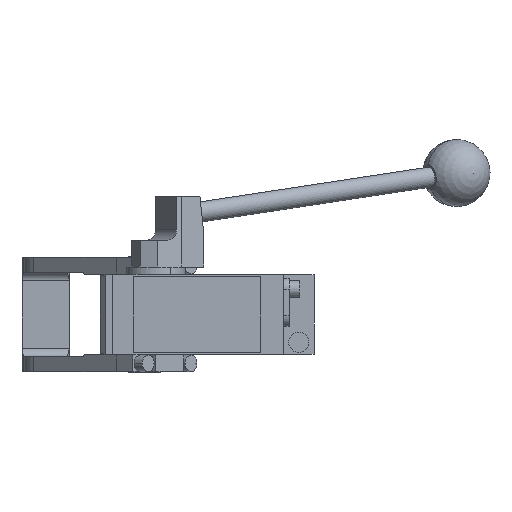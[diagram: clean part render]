
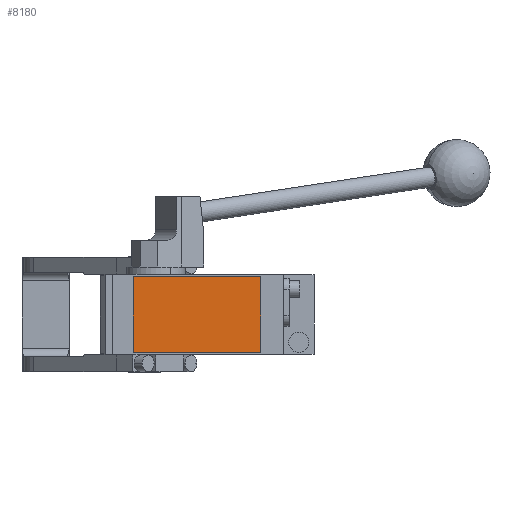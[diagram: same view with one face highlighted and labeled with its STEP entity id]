
A CAD part, front view. The second image highlights one B-rep face of the part: STEP entity #8180.
In plain terms, the highlighted planar face has unit normal (0, -1, 0).
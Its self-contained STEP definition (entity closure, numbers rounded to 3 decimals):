
#241 = LINE ( 'NONE', #10561, #6660 ) ;
#1037 = ORIENTED_EDGE ( 'NONE', *, *, #2935, .T. ) ;
#2107 = DIRECTION ( 'NONE',  ( 0., -1., 0. ) ) ;
#2258 = CARTESIAN_POINT ( 'NONE',  ( 69., -280.5, 22.5 ) ) ;
#2417 = VECTOR ( 'NONE', #9437, 1000. ) ;
#2935 = EDGE_CURVE ( 'NONE', #2954, #13245, #10575, .T. ) ;
#2954 = VERTEX_POINT ( 'NONE', #13304 ) ;
#2997 = VERTEX_POINT ( 'NONE', #11313 ) ;
#3538 = EDGE_CURVE ( 'NONE', #13245, #2997, #11646, .T. ) ;
#3795 = EDGE_CURVE ( 'NONE', #2997, #8123, #241, .T. ) ;
#4462 = PLANE ( 'NONE',  #8456 ) ;
#4600 = DIRECTION ( 'NONE',  ( 0., 0., -1. ) ) ;
#5305 = CARTESIAN_POINT ( 'NONE',  ( -7., -280.5, 22.5 ) ) ;
#5424 = DIRECTION ( 'NONE',  ( 0., 0., -1. ) ) ;
#6634 = LINE ( 'NONE', #13601, #7691 ) ;
#6660 = VECTOR ( 'NONE', #6990, 1000. ) ;
#6990 = DIRECTION ( 'NONE',  ( -1., 0., 0. ) ) ;
#7691 = VECTOR ( 'NONE', #5424, 1000. ) ;
#8123 = VERTEX_POINT ( 'NONE', #5305 ) ;
#8180 = ADVANCED_FACE ( 'NONE', ( #11574 ), #4462, .T. ) ;
#8215 = CARTESIAN_POINT ( 'NONE',  ( -7., -280.5, -22.5 ) ) ;
#8398 = CARTESIAN_POINT ( 'NONE',  ( 69., -280.5, -22.5 ) ) ;
#8456 = AXIS2_PLACEMENT_3D ( 'NONE', #13764, #2107, #4600 ) ;
#9383 = DIRECTION ( 'NONE',  ( 0., 0., 1. ) ) ;
#9433 = EDGE_CURVE ( 'NONE', #8123, #2954, #6634, .T. ) ;
#9437 = DIRECTION ( 'NONE',  ( 1., 0., 0. ) ) ;
#10216 = ORIENTED_EDGE ( 'NONE', *, *, #3538, .T. ) ;
#10561 = CARTESIAN_POINT ( 'NONE',  ( -7., -280.5, 22.5 ) ) ;
#10575 = LINE ( 'NONE', #8215, #2417 ) ;
#11036 = VECTOR ( 'NONE', #9383, 1000. ) ;
#11313 = CARTESIAN_POINT ( 'NONE',  ( 69., -280.5, 22.5 ) ) ;
#11574 = FACE_OUTER_BOUND ( 'NONE', #11853, .T. ) ;
#11646 = LINE ( 'NONE', #2258, #11036 ) ;
#11853 = EDGE_LOOP ( 'NONE', ( #13986, #1037, #10216, #12947 ) ) ;
#12947 = ORIENTED_EDGE ( 'NONE', *, *, #3795, .T. ) ;
#13245 = VERTEX_POINT ( 'NONE', #8398 ) ;
#13304 = CARTESIAN_POINT ( 'NONE',  ( -7., -280.5, -22.5 ) ) ;
#13601 = CARTESIAN_POINT ( 'NONE',  ( -7., -280.5, 22.5 ) ) ;
#13764 = CARTESIAN_POINT ( 'NONE',  ( 0., -280.5, 0. ) ) ;
#13986 = ORIENTED_EDGE ( 'NONE', *, *, #9433, .T. ) ;
